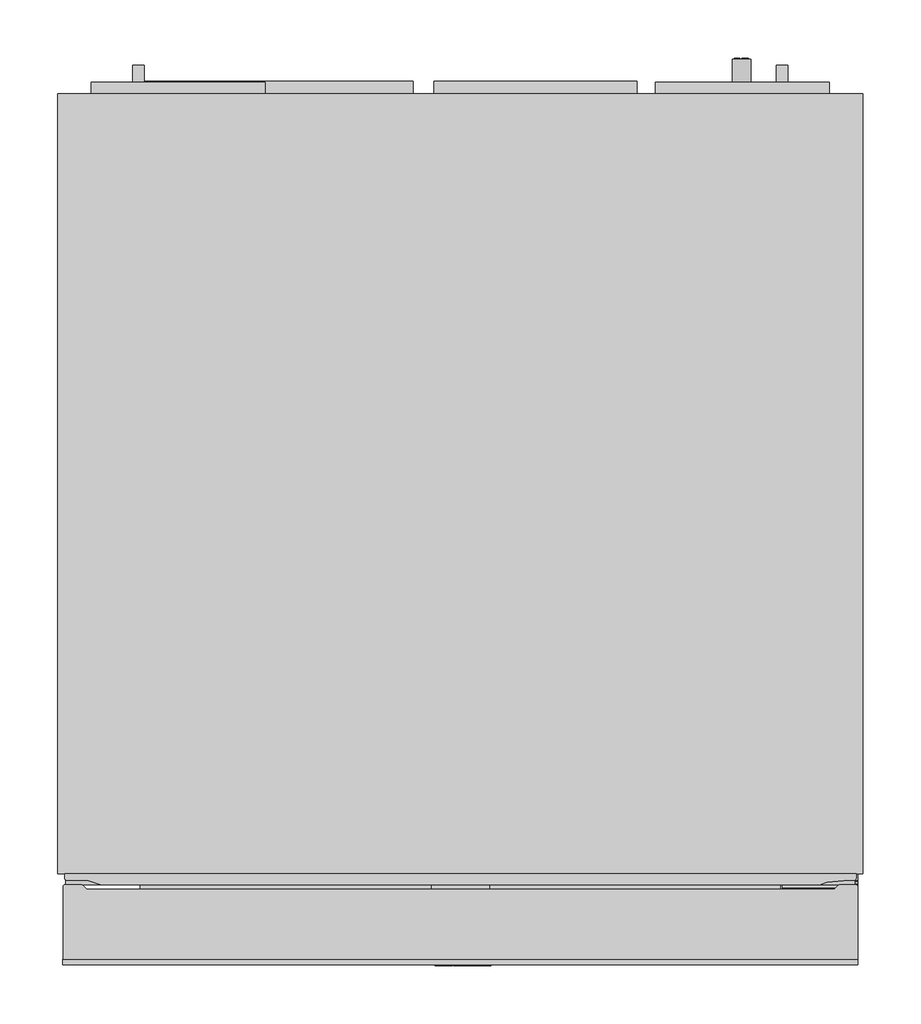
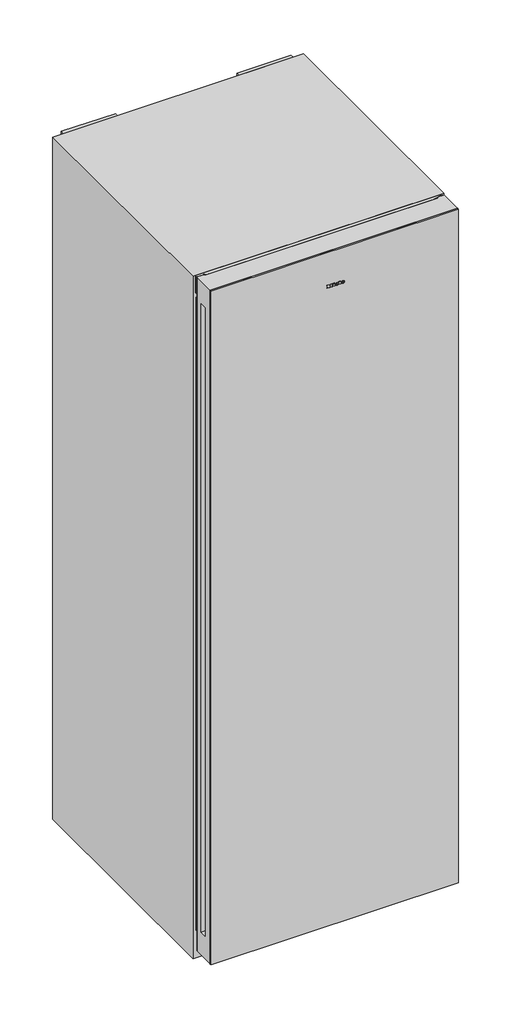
# Not in any storey: 1 proxy.
"""IFC4 building model written with IfcOpenShell, lengths in millimetres."""

from ifc_helpers import new_model, si_unit, origin, place, context, project, spatial, transform, mapped, element, save
from components import specialty_equipment_c9b6d5f7, specialty_equipment_cc0d7ca1, specialty_equipment_9f9a1140

model = new_model("IFC4")

# Units and contexts
model_context = context("Model", 3, world=origin())
ifc_project = project(units=[si_unit("LENGTHUNIT", "METRE", prefix="MILLI")], contexts=[model_context])

# Site, building
site = spatial("IfcSite", under=ifc_project)
building = spatial("IfcBuilding", under=site)

# Proxy
placement = place(None, origin())
specialty_equipment_shape = specialty_equipment_c9b6d5f7(model_context)
specialty_equipment_2_shape = specialty_equipment_cc0d7ca1(model_context)
specialty_equipment_3_shape = specialty_equipment_9f9a1140(model_context)
element("IfcBuildingElementProxy", 1, Name="12443600_AUS_KWT4999F_OBWS : 39499962_AUS_12443600_KWT4999F_OBWS", ObjectType="12443600_AUS_KWT4999F_OBWS : 39499962_AUS_12443600_KWT4999F_OBWS", at=placement, inside=building, context=model_context, shape_type="MappedRepresentation", body=[
    mapped(specialty_equipment_shape, transform((0.0, 0.0, 0.0), x_axis=(1.0, 0.0, 0.0), y_axis=(0.0, 1.0, 0.0), z_axis=(0.0, 0.0, 1.0))),
    mapped(specialty_equipment_2_shape, transform((0.0, 0.0, 0.0), x_axis=(1.0, 0.0, 0.0), y_axis=(0.0, 1.0, 0.0), z_axis=(0.0, 0.0, 1.0))),
    mapped(specialty_equipment_3_shape, transform((0.0, 0.0, 0.0), x_axis=(1.0, 0.0, 0.0), y_axis=(0.0, 1.0, 0.0), z_axis=(0.0, 0.0, 1.0))),
])

save(model, "model.ifc")
